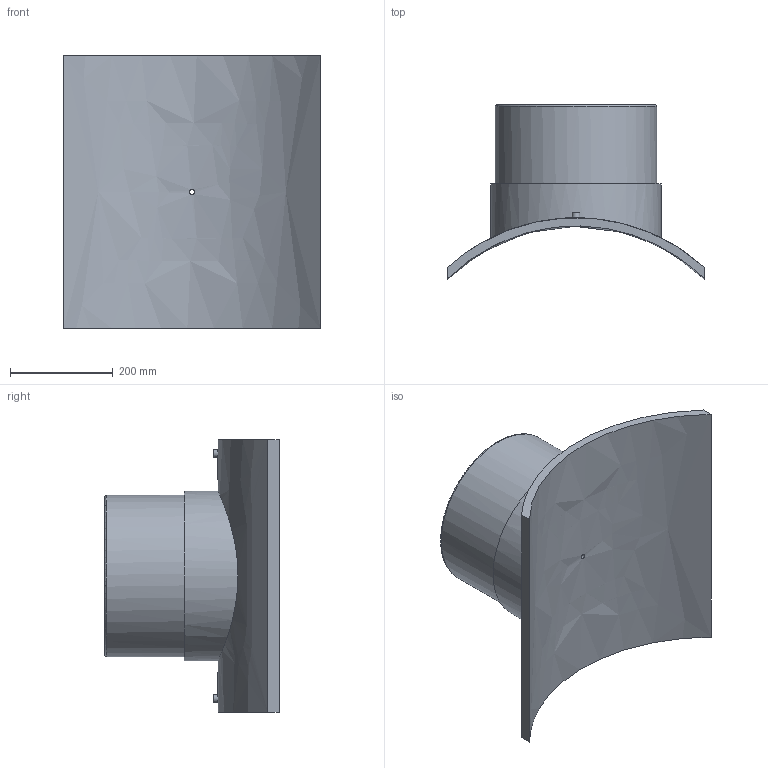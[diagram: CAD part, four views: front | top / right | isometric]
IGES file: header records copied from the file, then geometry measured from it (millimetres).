
Global section: file name: 495803710315T; native system: Autodesk Inventor 2019; preprocessor: unknown; author: KIM; date: 20240404.115632; units: millimetre
Bounding box: 500 x 338.96 x 530 mm (x, y, z)
Volume: 11928824.2 mm3; surface area: 1056452.9 mm2
Topology: 1 solids, 1 shells, 29 faces, 60 edges, 43 vertices
Faces by surface type: bspline 29
